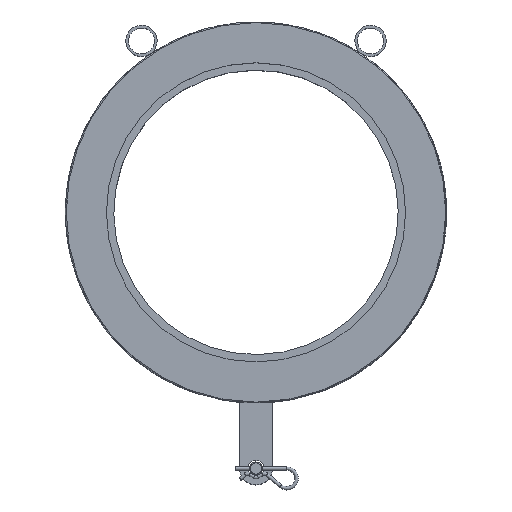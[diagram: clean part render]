
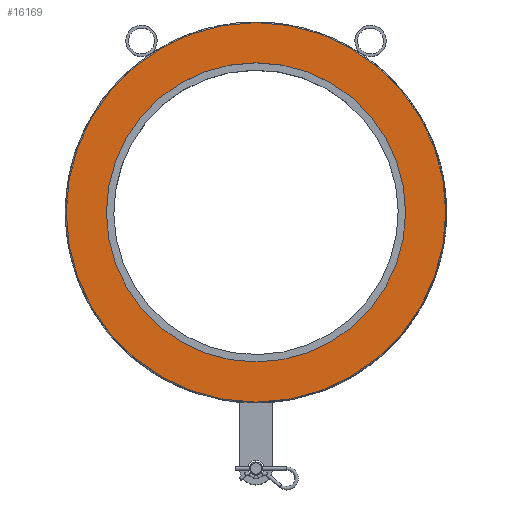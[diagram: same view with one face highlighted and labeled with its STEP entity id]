
A CAD part, top view. The second image highlights one B-rep face of the part: STEP entity #16169.
In plain terms, the highlighted planar face has unit normal (0, 0, 1).
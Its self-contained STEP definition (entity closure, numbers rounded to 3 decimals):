
#533=FACE_BOUND('',#3574,.T.);
#1751=PLANE('',#17021);
#2612=FACE_OUTER_BOUND('',#3573,.T.);
#3573=EDGE_LOOP('',(#14872));
#3574=EDGE_LOOP('',(#14873));
#6230=CIRCLE('',#17017,182.5);
#6231=CIRCLE('',#17019,231.5);
#7809=VERTEX_POINT('',#38554);
#7810=VERTEX_POINT('',#38558);
#10179=EDGE_CURVE('',#7809,#7809,#6230,.T.);
#10181=EDGE_CURVE('',#7810,#7810,#6231,.T.);
#14872=ORIENTED_EDGE('',*,*,#10181,.F.);
#14873=ORIENTED_EDGE('',*,*,#10179,.T.);
#16169=ADVANCED_FACE('',(#2612,#533),#1751,.T.);
#17017=AXIS2_PLACEMENT_3D('',#38555,#19743,#19744);
#17019=AXIS2_PLACEMENT_3D('',#38559,#19748,#19749);
#17021=AXIS2_PLACEMENT_3D('',#38562,#19753,#19754);
#19743=DIRECTION('center_axis',(0.,0.,
-1.));
#19744=DIRECTION('ref_axis',(-1.,0.,0.));
#19748=DIRECTION('center_axis',(0.,0.,
-1.));
#19749=DIRECTION('ref_axis',(-1.,0.,0.));
#19753=DIRECTION('center_axis',(0.,0.,
1.));
#19754=DIRECTION('ref_axis',(-1.,0.,0.));
#38554=CARTESIAN_POINT('',(182.5,0.,132.));
#38555=CARTESIAN_POINT('Origin',(0.,0.,
132.));
#38558=CARTESIAN_POINT('',(231.5,0.,132.));
#38559=CARTESIAN_POINT('Origin',(0.,0.,
132.));
#38562=CARTESIAN_POINT('Origin',(0.,0.,
132.));
